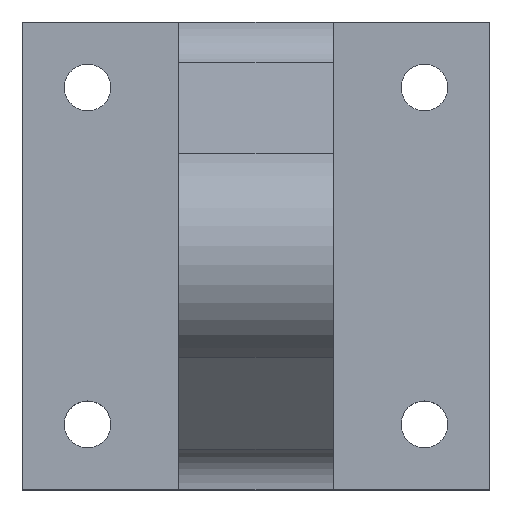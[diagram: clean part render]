
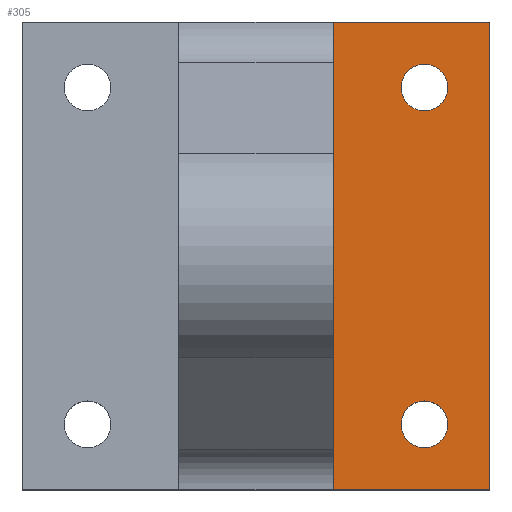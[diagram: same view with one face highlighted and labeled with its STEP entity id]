
A CAD part, top view. The second image highlights one B-rep face of the part: STEP entity #305.
In plain terms, the highlighted planar face has unit normal (0, 0, 1).
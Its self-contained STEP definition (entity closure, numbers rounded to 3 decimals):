
#16 = EDGE_CURVE ( 'NONE', #54, #551, #517, .T. ) ;
#21 = CARTESIAN_POINT ( 'NONE',  ( 8.25, 0., 10. ) ) ;
#24 = DIRECTION ( 'NONE',  ( 0., 0., -1. ) ) ;
#28 = CIRCLE ( 'NONE', #153, 2.5 ) ;
#33 = LINE ( 'NONE', #258, #630 ) ;
#40 = ORIENTED_EDGE ( 'NONE', *, *, #85, .T. ) ;
#54 = VERTEX_POINT ( 'NONE', #490 ) ;
#75 = DIRECTION ( 'NONE',  ( -1., 0., 0. ) ) ;
#85 = EDGE_CURVE ( 'NONE', #200, #887, #33, .T. ) ;
#94 = DIRECTION ( 'NONE',  ( -1., 0., 0. ) ) ;
#104 = FACE_BOUND ( 'NONE', #398, .T. ) ;
#116 = CARTESIAN_POINT ( 'NONE',  ( 8.25, -25., 10. ) ) ;
#122 = AXIS2_PLACEMENT_3D ( 'NONE', #625, #24, #94 ) ;
#135 = CARTESIAN_POINT ( 'NONE',  ( 8.25, 25., 10. ) ) ;
#146 = CARTESIAN_POINT ( 'NONE',  ( 25., -25., 10. ) ) ;
#148 = CARTESIAN_POINT ( 'NONE',  ( -25., 25., 10. ) ) ;
#153 = AXIS2_PLACEMENT_3D ( 'NONE', #415, #602, #75 ) ;
#159 = ORIENTED_EDGE ( 'NONE', *, *, #732, .T. ) ;
#167 = AXIS2_PLACEMENT_3D ( 'NONE', #740, #886, #829 ) ;
#172 = EDGE_CURVE ( 'NONE', #551, #54, #805, .T. ) ;
#174 = DIRECTION ( 'NONE',  ( -1., 0., 0. ) ) ;
#200 = VERTEX_POINT ( 'NONE', #146 ) ;
#213 = VERTEX_POINT ( 'NONE', #746 ) ;
#218 = VERTEX_POINT ( 'NONE', #135 ) ;
#224 = LINE ( 'NONE', #148, #787 ) ;
#226 = CARTESIAN_POINT ( 'NONE',  ( 18., 18., 10. ) ) ;
#235 = EDGE_CURVE ( 'NONE', #213, #349, #28, .T. ) ;
#258 = CARTESIAN_POINT ( 'NONE',  ( 25., -25., 10. ) ) ;
#283 = VECTOR ( 'NONE', #297, 1000. ) ;
#297 = DIRECTION ( 'NONE',  ( 1., 0., 0. ) ) ;
#305 = ADVANCED_FACE ( 'NONE', ( #501, #104, #846 ), #419, .F. ) ;
#306 = DIRECTION ( 'NONE',  ( -1., 0., 0. ) ) ;
#314 = DIRECTION ( 'NONE',  ( 0., 1., 0. ) ) ;
#333 = AXIS2_PLACEMENT_3D ( 'NONE', #707, #776, #174 ) ;
#349 = VERTEX_POINT ( 'NONE', #361 ) ;
#352 = ORIENTED_EDGE ( 'NONE', *, *, #235, .T. ) ;
#358 = EDGE_CURVE ( 'NONE', #218, #742, #771, .T. ) ;
#361 = CARTESIAN_POINT ( 'NONE',  ( 15.5, -18., 10. ) ) ;
#393 = ORIENTED_EDGE ( 'NONE', *, *, #358, .T. ) ;
#395 = CARTESIAN_POINT ( 'NONE',  ( 25., 25., 10. ) ) ;
#398 = EDGE_LOOP ( 'NONE', ( #800, #352 ) ) ;
#414 = EDGE_CURVE ( 'NONE', #349, #213, #427, .T. ) ;
#415 = CARTESIAN_POINT ( 'NONE',  ( 18., -18., 10. ) ) ;
#418 = LINE ( 'NONE', #690, #283 ) ;
#419 = PLANE ( 'NONE',  #333 ) ;
#427 = CIRCLE ( 'NONE', #122, 2.5 ) ;
#483 = ORIENTED_EDGE ( 'NONE', *, *, #172, .T. ) ;
#490 = CARTESIAN_POINT ( 'NONE',  ( 15.5, 18., 10. ) ) ;
#497 = ORIENTED_EDGE ( 'NONE', *, *, #647, .T. ) ;
#501 = FACE_BOUND ( 'NONE', #520, .T. ) ;
#517 = CIRCLE ( 'NONE', #559, 2.5 ) ;
#520 = EDGE_LOOP ( 'NONE', ( #768, #483 ) ) ;
#541 = DIRECTION ( 'NONE',  ( -1., 0., 0. ) ) ;
#551 = VERTEX_POINT ( 'NONE', #748 ) ;
#559 = AXIS2_PLACEMENT_3D ( 'NONE', #226, #622, #306 ) ;
#602 = DIRECTION ( 'NONE',  ( 0., 0., -1. ) ) ;
#622 = DIRECTION ( 'NONE',  ( 0., 0., -1. ) ) ;
#625 = CARTESIAN_POINT ( 'NONE',  ( 18., -18., 10. ) ) ;
#630 = VECTOR ( 'NONE', #314, 1000. ) ;
#647 = EDGE_CURVE ( 'NONE', #887, #218, #224, .T. ) ;
#690 = CARTESIAN_POINT ( 'NONE',  ( -25., -25., 10. ) ) ;
#707 = CARTESIAN_POINT ( 'NONE',  ( 0., 0., 10. ) ) ;
#713 = VECTOR ( 'NONE', #833, 1000. ) ;
#732 = EDGE_CURVE ( 'NONE', #742, #200, #418, .T. ) ;
#740 = CARTESIAN_POINT ( 'NONE',  ( 18., 18., 10. ) ) ;
#742 = VERTEX_POINT ( 'NONE', #116 ) ;
#746 = CARTESIAN_POINT ( 'NONE',  ( 20.5, -18., 10. ) ) ;
#748 = CARTESIAN_POINT ( 'NONE',  ( 20.5, 18., 10. ) ) ;
#768 = ORIENTED_EDGE ( 'NONE', *, *, #16, .T. ) ;
#771 = LINE ( 'NONE', #21, #713 ) ;
#776 = DIRECTION ( 'NONE',  ( 0., 0., -1. ) ) ;
#787 = VECTOR ( 'NONE', #541, 1000. ) ;
#800 = ORIENTED_EDGE ( 'NONE', *, *, #414, .T. ) ;
#805 = CIRCLE ( 'NONE', #167, 2.5 ) ;
#829 = DIRECTION ( 'NONE',  ( -1., 0., 0. ) ) ;
#833 = DIRECTION ( 'NONE',  ( 0., -1., 0. ) ) ;
#846 = FACE_OUTER_BOUND ( 'NONE', #869, .T. ) ;
#869 = EDGE_LOOP ( 'NONE', ( #497, #393, #159, #40 ) ) ;
#886 = DIRECTION ( 'NONE',  ( 0., 0., -1. ) ) ;
#887 = VERTEX_POINT ( 'NONE', #395 ) ;
